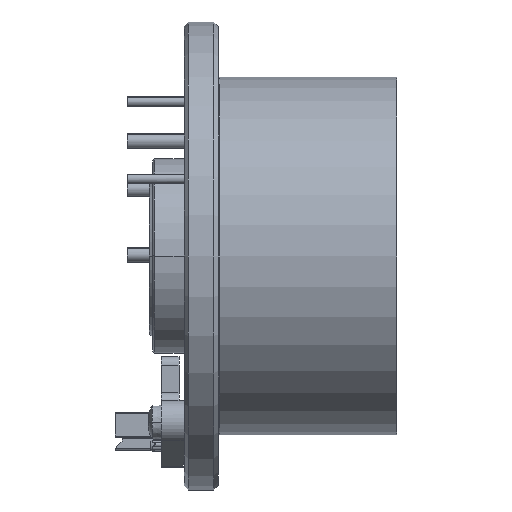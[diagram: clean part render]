
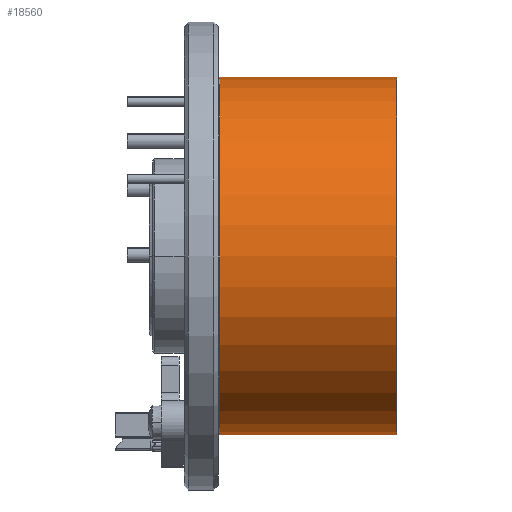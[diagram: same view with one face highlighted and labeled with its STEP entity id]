
A CAD part, front view. The second image highlights one B-rep face of the part: STEP entity #18560.
In plain terms, the highlighted cylindrical face has radius 21 mm (diameter 42 mm), a partial arc.
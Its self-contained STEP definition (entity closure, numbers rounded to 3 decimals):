
#2326=CARTESIAN_POINT('',(4.2,0.,0.));
#2327=DIRECTION('',(1.,0.,0.));
#2328=DIRECTION('',(0.,0.,1.));
#2329=AXIS2_PLACEMENT_3D('',#2326,#2327,#2328);
#2334=CARTESIAN_POINT('',(25.,0.,0.));
#2335=DIRECTION('',(-1.,0.,0.));
#2336=DIRECTION('',(0.,0.,-1.));
#2337=AXIS2_PLACEMENT_3D('',#2334,#2335,#2336);
#2350=DIRECTION('',(-1.,0.,0.));
#2351=VECTOR('',#2350,20.8);
#2352=CARTESIAN_POINT('',(25.,0.,-21.));
#2353=LINE('',#2352,#2351);
#2365=DIRECTION('',(-1.,0.,0.));
#2366=VECTOR('',#2365,20.8);
#2367=CARTESIAN_POINT('',(25.,0.,21.));
#2368=LINE('',#2367,#2366);
#14660=CARTESIAN_POINT('',(25.,0.,-21.));
#14661=CARTESIAN_POINT('',(25.,0.,21.));
#14662=VERTEX_POINT('',#14660);
#14663=VERTEX_POINT('',#14661);
#14716=CARTESIAN_POINT('',(4.2,0.,-21.));
#14717=CARTESIAN_POINT('',(4.2,0.,21.));
#14718=VERTEX_POINT('',#14716);
#14719=VERTEX_POINT('',#14717);
#18546=CARTESIAN_POINT('',(26.25,0.,0.));
#18547=DIRECTION('',(-1.,0.,0.));
#18548=DIRECTION('',(0.,0.,-1.));
#18549=AXIS2_PLACEMENT_3D('',#18546,#18547,#18548);
#18550=CYLINDRICAL_SURFACE('',#18549,21.);
#18551=ORIENTED_EDGE('',*,*,#18540,.F.);
#18553=ORIENTED_EDGE('',*,*,#18552,.F.);
#18555=ORIENTED_EDGE('',*,*,#18554,.F.);
#18557=ORIENTED_EDGE('',*,*,#18556,.T.);
#18558=EDGE_LOOP('',(#18551,#18553,#18555,#18557));
#18559=FACE_OUTER_BOUND('',#18558,.F.);
#18560=ADVANCED_FACE('',(#18559),#18550,.T.);
#2330=CIRCLE('',#2329,21.);
#2338=CIRCLE('',#2337,21.);
#18540=EDGE_CURVE('',#14719,#14718,#2330,.T.);
#18552=EDGE_CURVE('',#14663,#14719,#2368,.T.);
#18554=EDGE_CURVE('',#14662,#14663,#2338,.T.);
#18556=EDGE_CURVE('',#14662,#14718,#2353,.T.);
